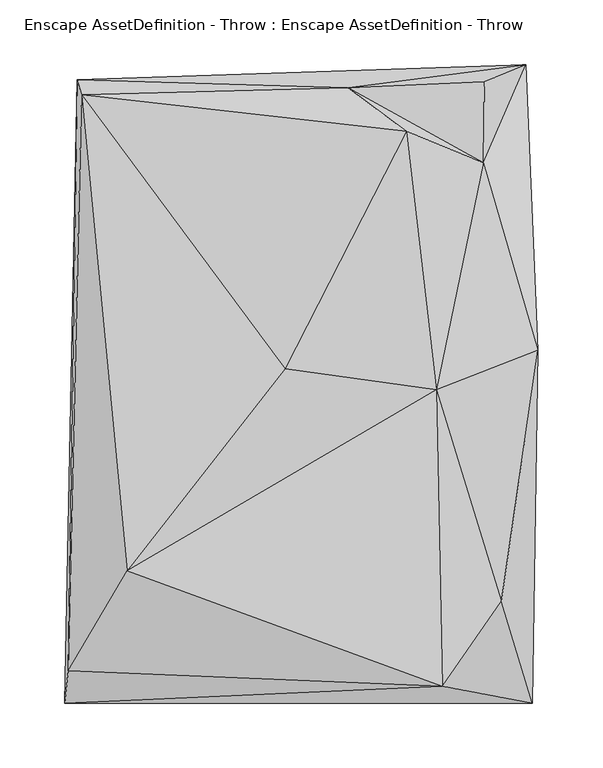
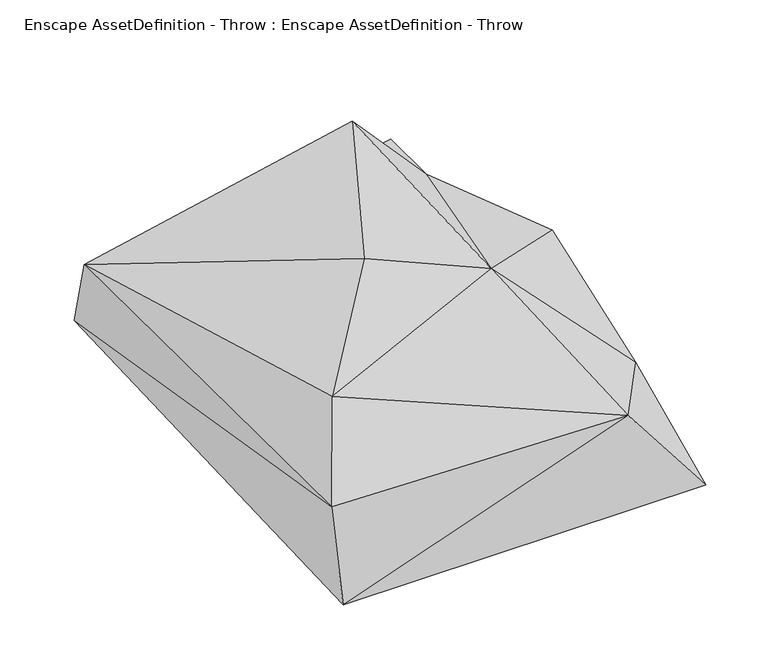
"""IFC4 building model written with IfcOpenShell, lengths in millimetres: geographic element geometry, Enscape AssetDefinition - Throw : Enscape AssetDefinition - Throw."""

from ifc_helpers import new_model, si_unit, origin, place, context, project, spatial, faceted_brep, source, transform, mapped, element, save


def enscape_assetdefinition_throw_enscape_assetdefinition_throw_fa2a812f(model_context):
    return source(origin(), model_context, "Body", "Brep", [
        faceted_brep([(187.2992516, -253.9015412, 0.0), (-163.8183743, 226.8044204, 5.0528897), (182.4935824, 238.302514, 15.0534045), (-173.4123826, -253.9015412, 0.0), (45.0087264, 220.8048254, 71.9952658), (-160.5180055, 215.1887119, 69.5878267), (-170.7933396, -228.9808989, 87.0426297), (117.9963425, -240.8120781, 89.7554308), (191.6763484, 18.2207823, 102.2896618), (163.3626521, -175.2261519, 89.8422003), (-125.3389865, -151.7268717, 141.000554), (113.3334562, -12.1276975, 107.6465696), (-3.6369946, 4.0347776, 149.1538733), (90.0606066, 187.1936172, 150.000006), (149.7172117, 162.8822833, 88.0154222), (150.2126753, 225.2531499, 86.7545009)], [[[0, 1, 2]], [[3, 1, 0]], [[4, 2, 1]], [[5, 1, 6]], [[4, 1, 5]], [[6, 1, 3]], [[7, 3, 0]], [[6, 3, 7]], [[8, 0, 2]], [[8, 9, 0]], [[0, 9, 7]], [[10, 7, 11]], [[10, 6, 7]], [[11, 7, 9]], [[10, 5, 6]], [[12, 5, 10]], [[5, 12, 13]], [[13, 4, 5]], [[11, 12, 10]], [[11, 13, 12]], [[14, 13, 11]], [[8, 11, 9]], [[14, 11, 8]], [[8, 2, 14]], [[14, 4, 13]], [[14, 2, 15]], [[15, 4, 14]], [[2, 4, 15]]]),
    ])


if __name__ == "__main__":
    model = new_model("IFC4")
    model_context = context("Model", 3, world=origin())
    ifc_project = project(units=[si_unit("LENGTHUNIT", "METRE", prefix="MILLI")], contexts=[model_context])
    site = spatial("IfcSite", under=ifc_project)
    building = spatial("IfcBuilding", under=site)
    placement = place(None, origin())
    enscape_assetdefinition_throw_enscape_assetdefinition_throw_shape = enscape_assetdefinition_throw_enscape_assetdefinition_throw_fa2a812f(model_context)
    element("IfcGeographicElement", 1, ObjectType="Enscape AssetDefinition - Throw : Enscape AssetDefinition - Throw", at=placement, inside=building, context=model_context, shape_type="MappedRepresentation", body=[
        mapped(enscape_assetdefinition_throw_enscape_assetdefinition_throw_shape, transform((0.0, 0.0, 0.0), x_axis=(1.0, 0.0, 0.0), y_axis=(0.0, 1.0, 0.0), z_axis=(0.0, 0.0, 1.0))),
    ])
    save(model, "model.ifc")
